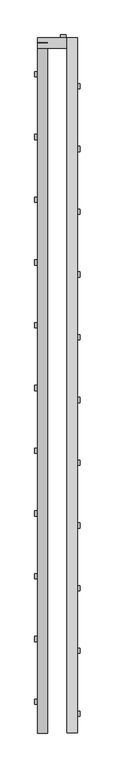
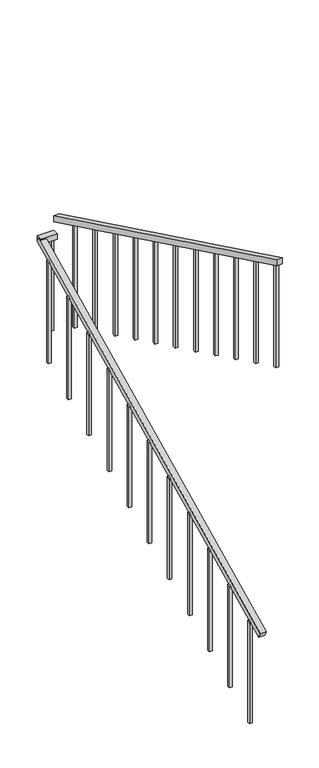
"""IFC4 building model written with IfcOpenShell, lengths in millimetres: railing geometry, ADSK_Стандартное_h 900 Поручень квадратный без направляющих."""

from ifc_helpers import new_model, si_unit, frame, origin, place, context, project, spatial, polyline, outline, extrude, source, transform, mapped, element, save


def railing_cd388d6e(model_context):
    return source(origin(), model_context, "Body", "SweptSolid", [
        extrude(outline(polyline([(0.0, -50.0), (0.0, 0.0), (3669.2438859, 0.0), (3669.2438859, -50.0), (0.0, -50.0)])), frame((-23448.1240021, 16541.2958986, 1000.8649406), z_axis=(0.0, -0.4371927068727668, 0.8993678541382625), x_axis=(0.0, 0.8993678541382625, 0.4371927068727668)), (0.0, 0.0, 1.0), 50.0),
        extrude(outline(polyline([(-23448.1240021, 19794.8362632), (-23448.1240021, 19844.8362632), (-23306.5240021, 19844.8362632), (-23306.5240021, 19794.8362632), (-23448.1240021, 19794.8362632)])), frame((0.0, 0.0, 2600.0), z_axis=(0.0, 0.0, 1.0), x_axis=(1.0, 0.0, 0.0)), (0.0, 0.0, 1.0), 50.0),
        extrude(outline(polyline([(19844.8362632, 2783.4861111), (19844.8362632, 2727.8915068), (16519.4362632, 4344.4053957), (16519.4362632, 4400.0), (19844.8362632, 2783.4861111)])), frame((-23306.5240021, 0.0, 0.0), z_axis=(1.0, 0.0, 0.0), x_axis=(0.0, 1.0, 0.0)), (0.0, 0.0, 1.0), 50.0),
        extrude(outline(polyline([(16624.3362632, 4299.0069444), (16624.3362632, 3354.1666667), (16599.3362632, 3354.1666667), (16599.3362632, 4311.1597222), (16624.3362632, 4299.0069444)])), frame((-23269.0240021, 0.0, 0.0), z_axis=(1.0, 0.0, 0.0), x_axis=(0.0, 1.0, 0.0)), (0.0, 0.0, 1.0), 25.0),
        extrude(outline(polyline([(16924.3362632, 4153.1736111), (16924.3362632, 3208.3333333), (16899.3362632, 3208.3333333), (16899.3362632, 4165.3263889), (16924.3362632, 4153.1736111)])), frame((-23269.0240021, 0.0, 0.0), z_axis=(1.0, 0.0, 0.0), x_axis=(0.0, 1.0, 0.0)), (0.0, 0.0, 1.0), 25.0),
        extrude(outline(polyline([(17224.3362632, 4007.3402778), (17224.3362632, 3062.5), (17199.3362632, 3062.5), (17199.3362632, 4019.4930556), (17224.3362632, 4007.3402778)])), frame((-23269.0240021, 0.0, 0.0), z_axis=(1.0, 0.0, 0.0), x_axis=(0.0, 1.0, 0.0)), (0.0, 0.0, 1.0), 25.0),
        extrude(outline(polyline([(17524.3362632, 3861.5069444), (17524.3362632, 2916.6666667), (17499.3362632, 2916.6666667), (17499.3362632, 3873.6597222), (17524.3362632, 3861.5069444)])), frame((-23269.0240021, 0.0, 0.0), z_axis=(1.0, 0.0, 0.0), x_axis=(0.0, 1.0, 0.0)), (0.0, 0.0, 1.0), 25.0),
        extrude(outline(polyline([(17824.3362632, 3715.6736111), (17824.3362632, 2770.8333333), (17799.3362632, 2770.8333333), (17799.3362632, 3727.8263889), (17824.3362632, 3715.6736111)])), frame((-23269.0240021, 0.0, 0.0), z_axis=(1.0, 0.0, 0.0), x_axis=(0.0, 1.0, 0.0)), (0.0, 0.0, 1.0), 25.0),
        extrude(outline(polyline([(18124.3362632, 3569.8402778), (18124.3362632, 2625.0), (18099.3362632, 2625.0), (18099.3362632, 3581.9930556), (18124.3362632, 3569.8402778)])), frame((-23269.0240021, 0.0, 0.0), z_axis=(1.0, 0.0, 0.0), x_axis=(0.0, 1.0, 0.0)), (0.0, 0.0, 1.0), 25.0),
        extrude(outline(polyline([(18424.3362632, 3424.0069444), (18424.3362632, 2479.1666667), (18399.3362632, 2479.1666667), (18399.3362632, 3436.1597222), (18424.3362632, 3424.0069444)])), frame((-23269.0240021, 0.0, 0.0), z_axis=(1.0, 0.0, 0.0), x_axis=(0.0, 1.0, 0.0)), (0.0, 0.0, 1.0), 25.0),
        extrude(outline(polyline([(18724.3362632, 3278.1736111), (18724.3362632, 2333.3333333), (18699.3362632, 2333.3333333), (18699.3362632, 3290.3263889), (18724.3362632, 3278.1736111)])), frame((-23269.0240021, 0.0, 0.0), z_axis=(1.0, 0.0, 0.0), x_axis=(0.0, 1.0, 0.0)), (0.0, 0.0, 1.0), 25.0),
        extrude(outline(polyline([(19024.3362632, 3132.3402778), (19024.3362632, 2187.5), (18999.3362632, 2187.5), (18999.3362632, 3144.4930556), (19024.3362632, 3132.3402778)])), frame((-23269.0240021, 0.0, 0.0), z_axis=(1.0, 0.0, 0.0), x_axis=(0.0, 1.0, 0.0)), (0.0, 0.0, 1.0), 25.0),
        extrude(outline(polyline([(19324.3362632, 2986.5069444), (19324.3362632, 2041.6666667), (19299.3362632, 2041.6666667), (19299.3362632, 2998.6597222), (19324.3362632, 2986.5069444)])), frame((-23269.0240021, 0.0, 0.0), z_axis=(1.0, 0.0, 0.0), x_axis=(0.0, 1.0, 0.0)), (0.0, 0.0, 1.0), 25.0),
        extrude(outline(polyline([(19624.3362632, 2840.6736111), (19624.3362632, 1895.8333333), (19599.3362632, 1895.8333333), (19599.3362632, 2852.8263889), (19624.3362632, 2840.6736111)])), frame((-23269.0240021, 0.0, 0.0), z_axis=(1.0, 0.0, 0.0), x_axis=(0.0, 1.0, 0.0)), (0.0, 0.0, 1.0), 25.0),
        extrude(outline(polyline([(-23336.0240021, 19832.3362632), (-23336.0240021, 19857.3362632), (-23311.0240021, 19857.3362632), (-23311.0240021, 19832.3362632), (-23336.0240021, 19832.3362632)])), frame((0.0, 0.0, 1750.0), z_axis=(0.0, 0.0, 1.0), x_axis=(1.0, 0.0, 0.0)), (0.0, 0.0, 1.0), 850.0),
        extrude(outline(polyline([(19656.9362632, 1604.1666667), (19656.9362632, 2521.0069444), (19681.9362632, 2533.1597222), (19681.9362632, 1604.1666667), (19656.9362632, 1604.1666667)])), frame((-23460.6240021, 0.0, 0.0), z_axis=(1.0, 0.0, 0.0), x_axis=(0.0, 1.0, 0.0)), (0.0, 0.0, 1.0), 25.0),
        extrude(outline(polyline([(19356.9362632, 1458.3333333), (19356.9362632, 2375.1736111), (19381.9362632, 2387.3263889), (19381.9362632, 1458.3333333), (19356.9362632, 1458.3333333)])), frame((-23460.6240021, 0.0, 0.0), z_axis=(1.0, 0.0, 0.0), x_axis=(0.0, 1.0, 0.0)), (0.0, 0.0, 1.0), 25.0),
        extrude(outline(polyline([(19056.9362632, 1312.5), (19056.9362632, 2229.3402778), (19081.9362632, 2241.4930556), (19081.9362632, 1312.5), (19056.9362632, 1312.5)])), frame((-23460.6240021, 0.0, 0.0), z_axis=(1.0, 0.0, 0.0), x_axis=(0.0, 1.0, 0.0)), (0.0, 0.0, 1.0), 25.0),
        extrude(outline(polyline([(18756.9362632, 1166.6666667), (18756.9362632, 2083.5069444), (18781.9362632, 2095.6597222), (18781.9362632, 1166.6666667), (18756.9362632, 1166.6666667)])), frame((-23460.6240021, 0.0, 0.0), z_axis=(1.0, 0.0, 0.0), x_axis=(0.0, 1.0, 0.0)), (0.0, 0.0, 1.0), 25.0),
        extrude(outline(polyline([(18456.9362632, 1020.8333333), (18456.9362632, 1937.6736111), (18481.9362632, 1949.8263889), (18481.9362632, 1020.8333333), (18456.9362632, 1020.8333333)])), frame((-23460.6240021, 0.0, 0.0), z_axis=(1.0, 0.0, 0.0), x_axis=(0.0, 1.0, 0.0)), (0.0, 0.0, 1.0), 25.0),
        extrude(outline(polyline([(18156.9362632, 875.0), (18156.9362632, 1791.8402778), (18181.9362632, 1803.9930556), (18181.9362632, 875.0), (18156.9362632, 875.0)])), frame((-23460.6240021, 0.0, 0.0), z_axis=(1.0, 0.0, 0.0), x_axis=(0.0, 1.0, 0.0)), (0.0, 0.0, 1.0), 25.0),
        extrude(outline(polyline([(17856.9362632, 729.1666667), (17856.9362632, 1646.0069444), (17881.9362632, 1658.1597222), (17881.9362632, 729.1666667), (17856.9362632, 729.1666667)])), frame((-23460.6240021, 0.0, 0.0), z_axis=(1.0, 0.0, 0.0), x_axis=(0.0, 1.0, 0.0)), (0.0, 0.0, 1.0), 25.0),
        extrude(outline(polyline([(17556.9362632, 583.3333333), (17556.9362632, 1500.1736111), (17581.9362632, 1512.3263889), (17581.9362632, 583.3333333), (17556.9362632, 583.3333333)])), frame((-23460.6240021, 0.0, 0.0), z_axis=(1.0, 0.0, 0.0), x_axis=(0.0, 1.0, 0.0)), (0.0, 0.0, 1.0), 25.0),
        extrude(outline(polyline([(17256.9362632, 437.5), (17256.9362632, 1354.3402778), (17281.9362632, 1366.4930556), (17281.9362632, 437.5), (17256.9362632, 437.5)])), frame((-23460.6240021, 0.0, 0.0), z_axis=(1.0, 0.0, 0.0), x_axis=(0.0, 1.0, 0.0)), (0.0, 0.0, 1.0), 25.0),
        extrude(outline(polyline([(16956.9362632, 291.6666667), (16956.9362632, 1208.5069444), (16981.9362632, 1220.6597222), (16981.9362632, 291.6666667), (16956.9362632, 291.6666667)])), frame((-23460.6240021, 0.0, 0.0), z_axis=(1.0, 0.0, 0.0), x_axis=(0.0, 1.0, 0.0)), (0.0, 0.0, 1.0), 25.0),
        extrude(outline(polyline([(16656.9362632, 145.8333333), (16656.9362632, 1062.6736111), (16681.9362632, 1074.8263889), (16681.9362632, 145.8333333), (16656.9362632, 145.8333333)])), frame((-23460.6240021, 0.0, 0.0), z_axis=(1.0, 0.0, 0.0), x_axis=(0.0, 1.0, 0.0)), (0.0, 0.0, 1.0), 25.0),
    ])


if __name__ == "__main__":
    model = new_model("IFC4")
    model_context = context("Model", 3, world=origin())
    ifc_project = project(units=[si_unit("LENGTHUNIT", "METRE", prefix="MILLI")], contexts=[model_context])
    site = spatial("IfcSite", under=ifc_project)
    building = spatial("IfcBuilding", under=site)
    placement = place(None, origin())
    railing_shape = railing_cd388d6e(model_context)
    element("IfcRailing", 1, ObjectType="ADSK_Стандартное_h 900 Поручень квадратный без направляющих", at=placement, inside=building, context=model_context, shape_type="MappedRepresentation", body=[
        mapped(railing_shape, transform((0.0, 0.0, 0.0), x_axis=(1.0, 0.0, 0.0), y_axis=(0.0, 1.0, 0.0), z_axis=(0.0, 0.0, 1.0))),
    ])
    save(model, "model.ifc")
